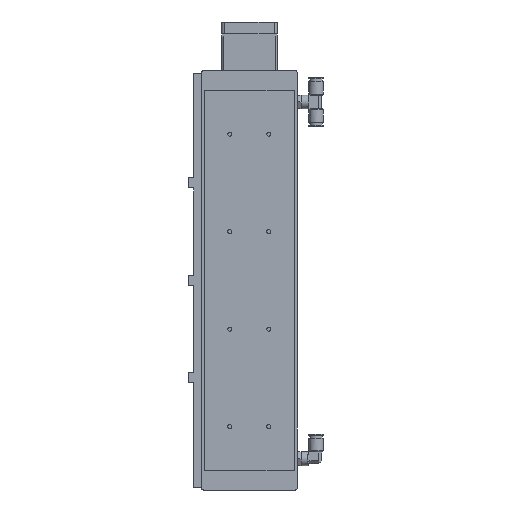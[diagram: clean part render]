
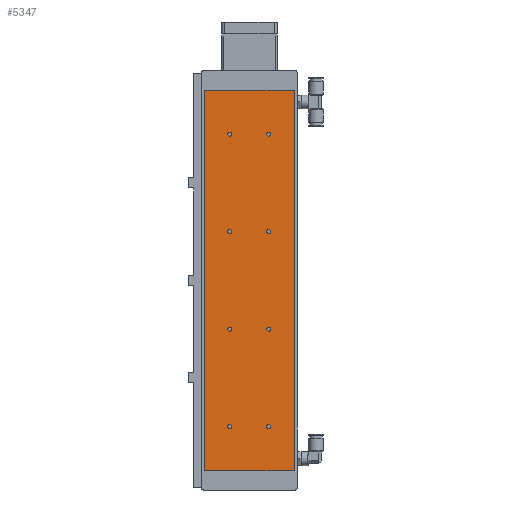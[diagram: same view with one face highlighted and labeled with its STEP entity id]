
A CAD part, front view. The second image highlights one B-rep face of the part: STEP entity #5347.
In plain terms, the highlighted planar face has unit normal (0, -1, 0).
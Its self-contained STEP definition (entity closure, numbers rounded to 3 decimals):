
#4419=CARTESIAN_POINT('',(-17.933,0.0,65.));
#4420=VERTEX_POINT('',#4419);
#4421=CARTESIAN_POINT('',(-20.0,0.0,65.));
#4422=DIRECTION('',(0.0,1.0,0.0));
#4423=DIRECTION('',(1.0,0.0,0.0));
#4424=AXIS2_PLACEMENT_3D('',#4421,#4422,#4423);
#4425=CIRCLE('',#4424,2.067);
#4426=EDGE_CURVE('',#4420,#4420,#4425,.T.);
#4477=CARTESIAN_POINT('',(22.067,0.0,65.));
#4478=VERTEX_POINT('',#4477);
#4479=CARTESIAN_POINT('',(20.,0.0,65.));
#4480=DIRECTION('',(0.0,1.0,0.0));
#4481=DIRECTION('',(1.0,0.0,0.0));
#4482=AXIS2_PLACEMENT_3D('',#4479,#4480,#4481);
#4483=CIRCLE('',#4482,2.067);
#4484=EDGE_CURVE('',#4478,#4478,#4483,.T.);
#4535=CARTESIAN_POINT('',(-17.933,0.0,365.0));
#4536=VERTEX_POINT('',#4535);
#4537=CARTESIAN_POINT('',(-20.,0.0,365.0));
#4538=DIRECTION('',(0.0,1.0,0.0));
#4539=DIRECTION('',(1.0,0.0,0.0));
#4540=AXIS2_PLACEMENT_3D('',#4537,#4538,#4539);
#4541=CIRCLE('',#4540,2.067);
#4542=EDGE_CURVE('',#4536,#4536,#4541,.T.);
#4593=CARTESIAN_POINT('',(22.067,0.0,365.0));
#4594=VERTEX_POINT('',#4593);
#4595=CARTESIAN_POINT('',(20.,0.0,365.0));
#4596=DIRECTION('',(0.0,1.0,0.0));
#4597=DIRECTION('',(1.0,0.0,0.0));
#4598=AXIS2_PLACEMENT_3D('',#4595,#4596,#4597);
#4599=CIRCLE('',#4598,2.067);
#4600=EDGE_CURVE('',#4594,#4594,#4599,.T.);
#4651=CARTESIAN_POINT('',(-17.933,0.0,265.0));
#4652=VERTEX_POINT('',#4651);
#4653=CARTESIAN_POINT('',(-20.,0.0,265.0));
#4654=DIRECTION('',(0.0,1.0,0.0));
#4655=DIRECTION('',(1.0,0.0,0.0));
#4656=AXIS2_PLACEMENT_3D('',#4653,#4654,#4655);
#4657=CIRCLE('',#4656,2.067);
#4658=EDGE_CURVE('',#4652,#4652,#4657,.T.);
#4709=CARTESIAN_POINT('',(-17.933,0.0,165.0));
#4710=VERTEX_POINT('',#4709);
#4711=CARTESIAN_POINT('',(-20.0,0.0,165.0));
#4712=DIRECTION('',(0.0,1.0,0.0));
#4713=DIRECTION('',(1.0,0.0,0.0));
#4714=AXIS2_PLACEMENT_3D('',#4711,#4712,#4713);
#4715=CIRCLE('',#4714,2.067);
#4716=EDGE_CURVE('',#4710,#4710,#4715,.T.);
#4767=CARTESIAN_POINT('',(22.067,0.0,165.0));
#4768=VERTEX_POINT('',#4767);
#4769=CARTESIAN_POINT('',(20.,0.0,165.0));
#4770=DIRECTION('',(0.0,1.0,0.0));
#4771=DIRECTION('',(1.0,0.0,0.0));
#4772=AXIS2_PLACEMENT_3D('',#4769,#4770,#4771);
#4773=CIRCLE('',#4772,2.067);
#4774=EDGE_CURVE('',#4768,#4768,#4773,.T.);
#4825=CARTESIAN_POINT('',(22.067,0.0,265.0));
#4826=VERTEX_POINT('',#4825);
#4827=CARTESIAN_POINT('',(20.,0.0,265.0));
#4828=DIRECTION('',(0.0,1.0,0.0));
#4829=DIRECTION('',(1.0,0.0,0.0));
#4830=AXIS2_PLACEMENT_3D('',#4827,#4828,#4829);
#4831=CIRCLE('',#4830,2.067);
#4832=EDGE_CURVE('',#4826,#4826,#4831,.T.);
#5234=CARTESIAN_POINT('',(46.,0.0,20.));
#5235=VERTEX_POINT('',#5234);
#5242=CARTESIAN_POINT('',(-46.,0.0,20.));
#5243=VERTEX_POINT('',#5242);
#5244=CARTESIAN_POINT('',(-46.,0.0,20.));
#5245=DIRECTION('',(1.0,0.0,0.0));
#5246=VECTOR('',#5245,92.);
#5247=LINE('',#5244,#5246);
#5248=EDGE_CURVE('',#5243,#5235,#5247,.T.);
#5265=CARTESIAN_POINT('',(-46.,0.0,410.0));
#5266=VERTEX_POINT('',#5265);
#5273=CARTESIAN_POINT('',(46.,0.0,410.0));
#5274=VERTEX_POINT('',#5273);
#5275=CARTESIAN_POINT('',(46.,0.0,410.0));
#5276=DIRECTION('',(-1.0,0.0,0.0));
#5277=VECTOR('',#5276,92.);
#5278=LINE('',#5275,#5277);
#5279=EDGE_CURVE('',#5274,#5266,#5278,.T.);
#5296=CARTESIAN_POINT('',(-46.,0.0,20.));
#5297=DIRECTION('',(0.0,0.0,1.0));
#5298=VECTOR('',#5297,390.0);
#5299=LINE('',#5296,#5298);
#5300=EDGE_CURVE('',#5243,#5266,#5299,.T.);
#5307=CARTESIAN_POINT('',(46.,0.0,0.0));
#5308=DIRECTION('',(0.0,-1.0,0.0));
#5309=DIRECTION('',(0.0,0.0,-1.0));
#5310=AXIS2_PLACEMENT_3D('',#5307,#5308,#5309);
#5311=PLANE('',#5310);
#5312=ORIENTED_EDGE('',*,*,#5248,.T.);
#5313=CARTESIAN_POINT('',(46.,0.0,20.));
#5314=DIRECTION('',(0.0,0.0,1.0));
#5315=VECTOR('',#5314,390.0);
#5316=LINE('',#5313,#5315);
#5317=EDGE_CURVE('',#5235,#5274,#5316,.T.);
#5318=ORIENTED_EDGE('',*,*,#5317,.T.);
#5319=ORIENTED_EDGE('',*,*,#5279,.T.);
#5320=ORIENTED_EDGE('',*,*,#5300,.F.);
#5321=EDGE_LOOP('',(#5312,#5318,#5319,#5320));
#5322=FACE_OUTER_BOUND('',#5321,.T.);
#5323=ORIENTED_EDGE('',*,*,#4426,.T.);
#5324=EDGE_LOOP('',(#5323));
#5325=FACE_BOUND('',#5324,.T.);
#5326=ORIENTED_EDGE('',*,*,#4484,.T.);
#5327=EDGE_LOOP('',(#5326));
#5328=FACE_BOUND('',#5327,.T.);
#5329=ORIENTED_EDGE('',*,*,#4542,.T.);
#5330=EDGE_LOOP('',(#5329));
#5331=FACE_BOUND('',#5330,.T.);
#5332=ORIENTED_EDGE('',*,*,#4600,.T.);
#5333=EDGE_LOOP('',(#5332));
#5334=FACE_BOUND('',#5333,.T.);
#5335=ORIENTED_EDGE('',*,*,#4658,.T.);
#5336=EDGE_LOOP('',(#5335));
#5337=FACE_BOUND('',#5336,.T.);
#5338=ORIENTED_EDGE('',*,*,#4716,.T.);
#5339=EDGE_LOOP('',(#5338));
#5340=FACE_BOUND('',#5339,.T.);
#5341=ORIENTED_EDGE('',*,*,#4774,.T.);
#5342=EDGE_LOOP('',(#5341));
#5343=FACE_BOUND('',#5342,.T.);
#5344=ORIENTED_EDGE('',*,*,#4832,.T.);
#5345=EDGE_LOOP('',(#5344));
#5346=FACE_BOUND('',#5345,.T.);
#5347=ADVANCED_FACE('',(#5322,#5325,#5328,#5331,#5334,#5337,#5340,#5343,#5346),#5311,.T.);
